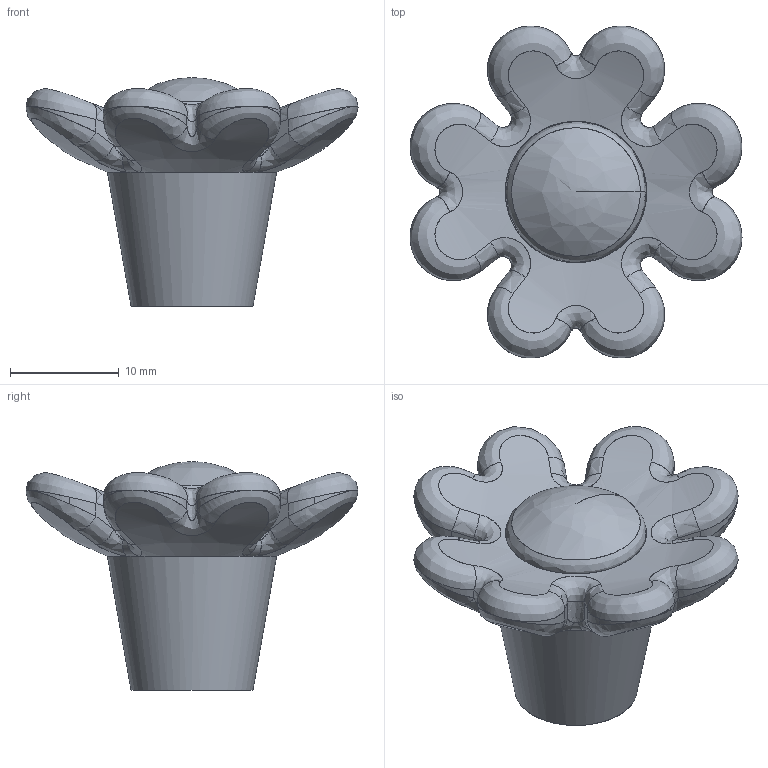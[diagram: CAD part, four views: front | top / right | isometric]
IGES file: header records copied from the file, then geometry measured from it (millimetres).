
Start section: C
Global section: file name: 8085.igs; native system: By Siemens PLM Incorporated; preprocessor: XPlus GENERIC/IGES 16.0.42; author: Author; organization: Title; date: 20231128.122323; units: millimetre
Bounding box: 30.52 x 30.52 x 21 mm (x, y, z)
Surface area: 3683 mm2 (no closed solid volume)
Topology: 0 solids, 0 shells, 115 faces, 547 edges, 546 vertices
Faces by surface type: bspline 115
